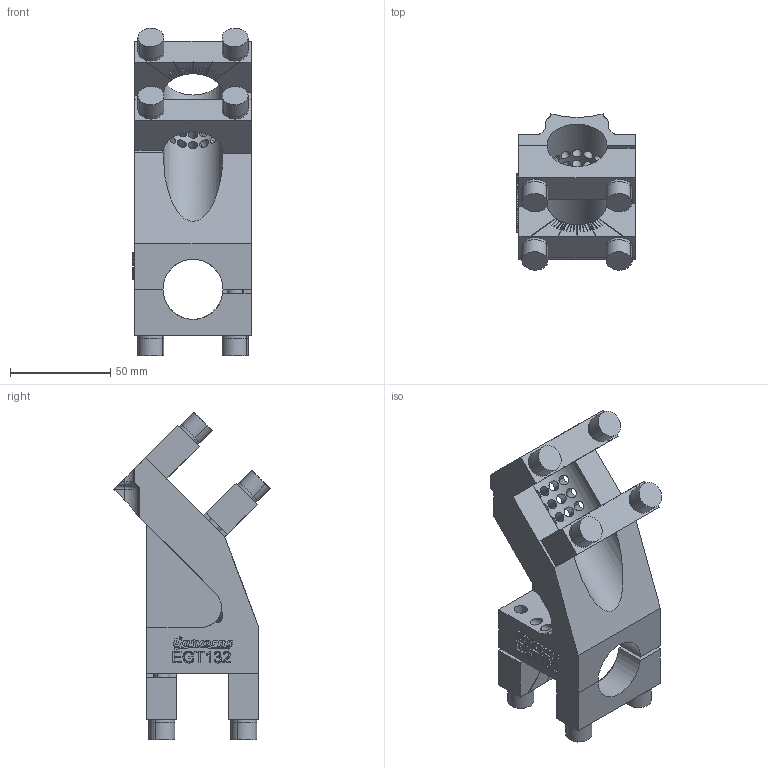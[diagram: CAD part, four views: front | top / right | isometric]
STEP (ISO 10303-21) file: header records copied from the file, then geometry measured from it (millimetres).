
FILE_DESCRIPTION(('CATIA V5 STEP Exchange'),'2;1');
FILE_NAME('C:\Users\User\Desktop\stp\EGT_132.stp','2017-07-21T01:34:54+00:00',('none'),('none'),'CATIA Version 5 Release 21 GA (IN-10)','CATIA V5 STEP AP203','none');
FILE_SCHEMA(('CONFIG_CONTROL_DESIGN'));
Products named in the file (1): EGT_132
Bounding box: 59 x 78.06 x 163.49 mm (x, y, z)
Volume: 210643.6 mm3; surface area: 74440.8 mm2
Topology: 38 solids, 38 shells, 1376 faces, 3888 edges, 2582 vertices
Faces by surface type: plane 1072, cylinder 183, extrusion 100, cone 13, torus 8
Entity records: 50678 total; most frequent: CARTESIAN_POINT 16241, ORIENTED_EDGE 7756, DIRECTION 5850, EDGE_CURVE 3878, VECTOR 3102, LINE 3002, VERTEX_POINT 2582, AXIS2_PLACEMENT_3D 1513
